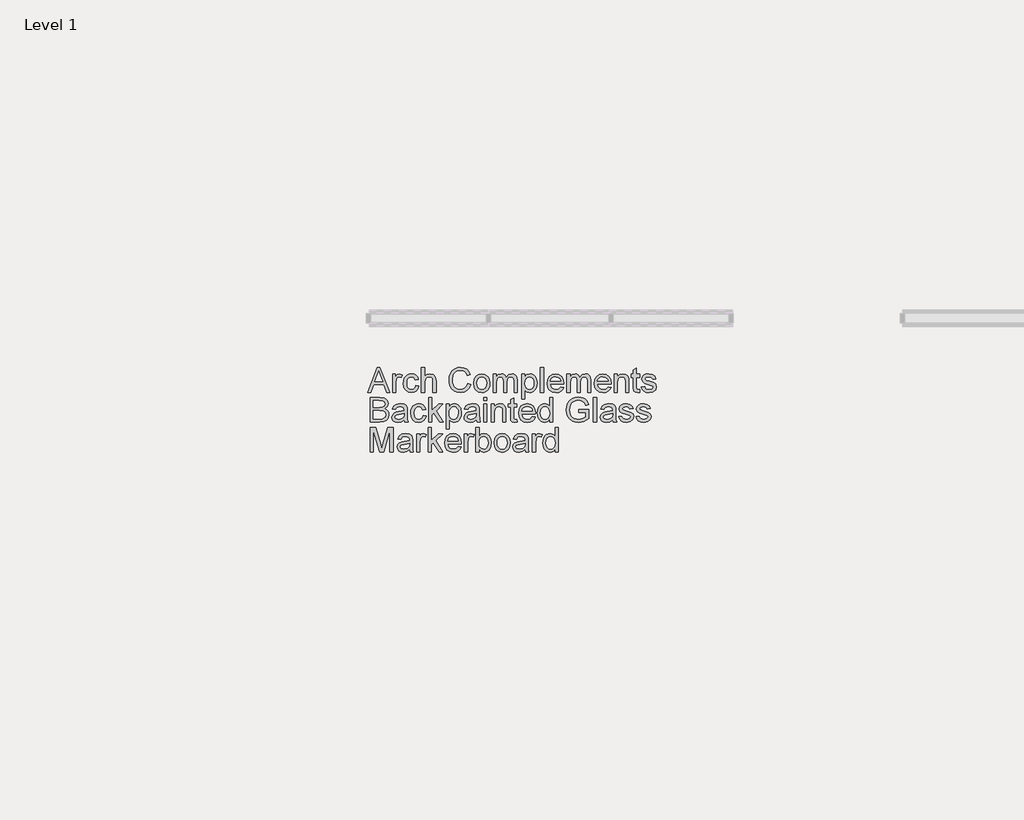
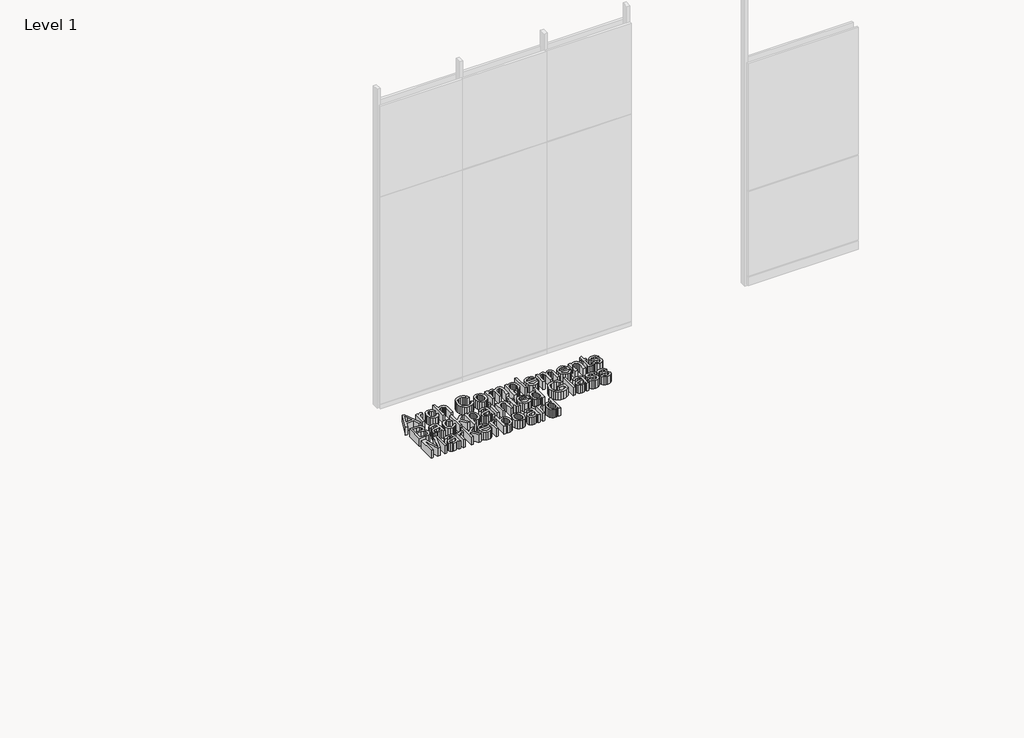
# One storey, part 21 of 22: 1 proxy.
"""IFC4 building model written with IfcOpenShell, lengths in millimetres."""

from ifc_helpers import new_model, si_unit, origin, origin_with_axes, place, context, project, spatial, polyline, outline, extrude, element, save

model = new_model("IFC4")

# Units and contexts
model_context = context("Model", 3, world=origin())
ifc_project = project(units=[si_unit("LENGTHUNIT", "METRE", prefix="MILLI")], contexts=[model_context])

# Site, building, storey
site = spatial("IfcSite", under=ifc_project)
building = spatial("IfcBuilding", under=site)
storey = spatial("IfcBuildingStorey", under=building, Name="Level 1", Elevation=0.0)

# Proxy
placement = place(None, origin())
element("IfcBuildingElementProxy", 1, Name="6\" Arial", ObjectType="6\" Arial", at=placement, inside=storey, context=model_context, shape_type="SweptSolid", body=[
    extrude(outline(polyline([(-107458.934071, 1351.2755108), (-107397.8229854, 1504.3709275), (-107381.526696, 1504.3709275), (-107320.4156105, 1351.2755108), (-107340.6364651, 1351.2755108), (-107358.1661893, 1399.1178285), (-107421.2208689, 1399.1178285), (-107438.7132164, 1351.2755108), (-107458.934071, 1351.2755108)]), holes=[polyline([(-107414.1940285, 1418.2547556), (-107365.1556529, 1418.2547556), (-107378.947696, 1455.893204), (-107389.6748407, 1485.2340004), (-107399.2059274, 1459.1823633), (-107414.1940285, 1418.2547556)])]), origin_with_axes(), (0.0, 0.0, 1.0), 76.2),
    extrude(outline(polyline([(-107302.3626109, 1351.2755108), (-107302.3626109, 1463.7049574), (-107285.6177997, 1463.7049574), (-107285.6177997, 1447.0722766), (-107273.7319739, 1462.396769), (-107261.7713945, 1466.0970733), (-107242.5597138, 1460.1915372), (-107248.9511484, 1443.0355811), (-107262.4068002, 1446.9601462), (-107273.2273869, 1443.1850883), (-107280.1234085, 1432.7195813), (-107283.2256838, 1410.3682485), (-107283.2256838, 1351.2755108), (-107302.3626109, 1351.2755108)])), origin_with_axes(), (0.0, 0.0, 1.0), 76.2),
    extrude(outline(polyline([(-107158.8356578, 1391.9414808), (-107139.6987307, 1389.549365), (-107145.0342704, 1372.5288998), (-107155.0605999, 1359.6666048), (-107168.8339546, 1351.5791974), (-107185.4105702, 1348.8833949), (-107205.7669157, 1352.6444365), (-107221.684765, 1363.9275612), (-107231.9587158, 1382.2375264), (-107235.3833661, 1407.0790892), (-107233.9209984, 1424.1088986), (-107229.5338952, 1438.8680667), (-107222.1519751, 1450.7865972), (-107211.7051565, 1459.2944937), (-107199.2072854, 1464.3964284), (-107185.6722079, 1466.0970733), (-107169.5020651, 1463.7610226), (-107156.5743607, 1456.7528706), (-107147.3002396, 1445.4463854), (-107142.0908466, 1430.215335), (-107161.2277736, 1427.8232191), (-107170.1047662, 1442.157226), (-107185.5227006, 1446.9601462), (-107197.8897529, 1444.5960629), (-107207.7058378, 1437.5038131), (-107214.1112887, 1425.3002844), (-107216.246439, 1407.6023645), (-107214.1580097, 1389.6661675), (-107207.8927218, 1377.4205899), (-107198.2541768, 1370.370389), (-107186.045976, 1368.020322), (-107176.136449, 1369.4873618), (-107168.0116648, 1373.8884813), (-107162.1014566, 1381.3358108), (-107158.8356578, 1391.9414808)])), origin_with_axes(), (0.0, 0.0, 1.0), 76.2),
    extrude(outline(polyline([(-107122.9539195, 1351.2755108), (-107122.9539195, 1504.3709275), (-107103.8169924, 1504.3709275), (-107103.8169924, 1448.0814505), (-107088.8943007, 1461.5931676), (-107070.5142541, 1466.0970733), (-107049.0225879, 1461.1820227), (-107035.978081, 1447.595552), (-107032.0535158, 1422.4409584), (-107032.0535158, 1351.2755108), (-107051.1904429, 1351.2755108), (-107051.1904429, 1420.4599874), (-107052.713548, 1432.4392553), (-107057.2828631, 1440.6434652), (-107064.6460948, 1445.380976), (-107074.5509496, 1446.9601462), (-107090.2305217, 1442.6991898), (-107100.6960287, 1431.1497553), (-107103.8169924, 1411.0036543), (-107103.8169924, 1351.2755108), (-107122.9539195, 1351.2755108)])), origin_with_axes(), (0.0, 0.0, 1.0), 76.2),
    extrude(outline(polyline([(-106835.9000132, 1405.6961472), (-106816.7630861, 1400.7624082), (-106825.5933577, 1378.4624685), (-106839.4508102, 1362.1708511), (-106857.6533171, 1352.205259), (-106879.5187513, 1348.8833949), (-106901.7159048, 1351.3969854), (-106919.3437431, 1358.937757), (-106932.8554602, 1371.2440719), (-106942.7042498, 1388.0542925), (-106948.7172443, 1407.8172812), (-106950.7215757, 1428.9819003), (-106948.4556066, 1451.3052005), (-106941.6576991, 1470.5822906), (-106930.6829331, 1486.2011254), (-106915.8863881, 1497.5496595), (-106898.3379755, 1504.4596974), (-106879.1076064, 1506.7630434), (-106858.1251993, 1503.7822427), (-106840.777687, 1494.8398407), (-106827.6070334, 1480.4871454), (-106819.155202, 1461.2754647), (-106838.2921291, 1456.7154938), (-106844.926513, 1470.6710605), (-106853.9903896, 1480.2441962), (-106865.5958893, 1485.7806362), (-106879.8551426, 1487.6261163), (-106896.2915951, 1485.5797359), (-106909.793968, 1479.4405947), (-106920.0398862, 1469.8534428), (-106926.7069748, 1457.46303), (-106931.5846486, 1429.0192771), (-106930.1409693, 1411.3400456), (-106925.8099314, 1396.05293), (-106918.4280113, 1383.741943), (-106907.8316854, 1374.9910972), (-106895.1282419, 1369.7630158), (-106881.4249687, 1368.020322), (-106865.4510542, 1370.3937495), (-106852.1402375, 1377.5140319), (-106842.0905475, 1389.3064157), (-106835.9000132, 1405.6961472)])), origin_with_axes(), (0.0, 0.0, 1.0), 76.2),
    extrude(outline(polyline([(-106797.6261591, 1407.4902341), (-106793.4866773, 1434.5977661), (-106781.0682319, 1453.6505953), (-106765.7250511, 1462.9854538), (-106747.3543487, 1466.0970733), (-106727.2502966, 1462.3079991), (-106711.1922843, 1450.9407766), (-106700.66604, 1432.8924491), (-106697.1572919, 1409.0600602), (-106698.7084295, 1389.7269048), (-106703.3618424, 1375.0097856), (-106710.9820397, 1363.9882985), (-106721.4335304, 1355.7420397), (-106733.8473037, 1350.5980561), (-106747.3543487, 1348.8833949), (-106767.70135, 1352.6584528), (-106783.7406739, 1363.9836264), (-106794.1547878, 1382.4103941), (-106797.6261591, 1407.4902341)]), holes=[polyline([(-106778.489232, 1407.5276109), (-106776.2746559, 1390.2081313), (-106769.6309278, 1377.8691116), (-106759.632631, 1370.4825194), (-106747.3543487, 1368.020322), (-106735.1321316, 1370.4965357), (-106725.1525231, 1377.9251768), (-106718.508795, 1390.42772), (-106716.294219, 1408.1256399), (-106718.5228113, 1424.9405326), (-106725.2085883, 1437.1113566), (-106735.2022131, 1444.4979488), (-106747.3543487, 1446.9601462), (-106759.632631, 1444.507293), (-106769.6309278, 1437.1487334), (-106776.2746559, 1424.8377464), (-106778.489232, 1407.5276109)])]), origin_with_axes(), (0.0, 0.0, 1.0), 76.2),
    extrude(outline(polyline([(-106675.6282489, 1351.2755108), (-106675.6282489, 1463.7049574), (-106656.4913218, 1463.7049574), (-106656.4913218, 1445.2034361), (-106643.3346844, 1460.3597329), (-106624.6089023, 1466.0970733), (-106613.9658554, 1464.6347056), (-106605.4345984, 1460.2476024), (-106594.8943378, 1443.8578709), (-106579.9623019, 1460.5372727), (-106561.1057009, 1466.0970733), (-106546.7203009, 1463.7843831), (-106536.0819261, 1456.8463126), (-106529.5082795, 1445.0959778), (-106527.317064, 1428.3464945), (-106527.317064, 1351.2755108), (-106546.4539911, 1351.2755108), (-106546.4539911, 1420.1235961), (-106548.2293896, 1436.1021827), (-106554.658201, 1443.9700014), (-106565.5909182, 1446.9601462), (-106575.958311, 1445.0445847), (-106584.4101424, 1439.2979), (-106590.0306803, 1429.3276358), (-106591.9041929, 1414.7413354), (-106591.9041929, 1351.2755108), (-106611.04112, 1351.2755108), (-106611.04112, 1422.2540743), (-106615.4702721, 1440.7929724), (-106621.3150708, 1445.4183528), (-106629.991163, 1446.9601462), (-106644.1569743, 1442.848697), (-106653.5759306, 1430.813364), (-106656.4913218, 1407.9761326), (-106656.4913218, 1351.2755108), (-106675.6282489, 1351.2755108)])), origin_with_axes(), (0.0, 0.0, 1.0), 76.2),
    extrude(outline(polyline([(-106498.6116734, 1308.2174249), (-106498.6116734, 1463.7049574), (-106479.4747463, 1463.7049574), (-106479.4747463, 1444.9417984), (-106466.2433553, 1460.8082546), (-106448.3772398, 1466.0970733), (-106435.4355191, 1464.2469212), (-106424.1196896, 1458.6964648), (-106414.9063058, 1449.7820954), (-106408.2719219, 1437.8402044), (-106402.927038, 1408.3499008), (-106404.4361267, 1391.9835298), (-106408.9633929, 1377.3458363), (-106416.3640014, 1365.1796844), (-106426.4931171, 1356.2279382), (-106438.290173, 1350.7195307), (-106450.6946021, 1348.8833949), (-106467.3459712, 1353.7984455), (-106479.4747463, 1366.2262351), (-106479.4747463, 1308.2174249), (-106498.6116734, 1308.2174249)]), holes=[polyline([(-106479.4747463, 1406.5931906), (-106477.4050054, 1389.4372345), (-106471.1957827, 1377.4392783), (-106462.033792, 1370.3750611), (-106451.105747, 1368.020322), (-106440.0001621, 1370.4591589), (-106430.6045663, 1377.7756696), (-106424.1991154, 1390.2128034), (-106422.063965, 1408.0135095), (-106424.1477222, 1425.0760235), (-106430.3989938, 1437.2421754), (-106439.5469683, 1444.5306535), (-106450.3208339, 1446.9601462), (-106461.1367485, 1444.3764742), (-106470.6351306, 1436.6254581), (-106477.2648424, 1423.9500471), (-106479.4747463, 1406.5931906)])]), origin_with_axes(), (0.0, 0.0, 1.0), 76.2),
    extrude(outline(polyline([(-106381.397995, 1351.2755108), (-106381.397995, 1504.3709275), (-106362.2610679, 1504.3709275), (-106362.2610679, 1351.2755108), (-106381.397995, 1351.2755108)])), origin_with_axes(), (0.0, 0.0, 1.0), 76.2),
    extrude(outline(polyline([(-106254.8401139, 1384.7651332), (-106236.076955, 1382.3730173), (-106242.8374856, 1368.2352387), (-106253.6253676, 1357.6669454), (-106268.1976517, 1351.0792825), (-106286.3113885, 1348.8833949), (-106308.7655076, 1352.6724691), (-106326.0429383, 1364.0396917), (-106337.0597533, 1382.2468706), (-106340.7320249, 1406.5558138), (-106337.0223765, 1431.6823748), (-106325.8934311, 1450.4735664), (-106308.8496054, 1462.1911966), (-106287.3953161, 1466.0970733), (-106266.6091372, 1462.2005408), (-106249.9998169, 1450.5109432), (-106239.1091487, 1431.7571285), (-106235.478926, 1406.6679443), (-106235.5910564, 1401.5099444), (-106321.5950979, 1401.5099444), (-106318.282578, 1387.1852817), (-106310.5876271, 1376.6543653), (-106299.4820422, 1370.1788328), (-106285.9376204, 1368.020322), (-106267.1744615, 1372.0196407), (-106254.8401139, 1384.7651332)]), holes=[polyline([(-106321.5950979, 1420.6468715), (-106254.6158531, 1420.6468715), (-106257.2041972, 1430.7572988), (-106262.2780993, 1437.9897116), (-106273.4350773, 1444.7175376), (-106287.4700697, 1446.9601462), (-106300.3697415, 1445.1707314), (-106311.0361488, 1439.802487), (-106318.4507737, 1431.4347535), (-106321.5950979, 1420.6468715)])]), origin_with_axes(), (0.0, 0.0, 1.0), 76.2),
    extrude(outline(polyline([(-106216.3419989, 1351.2755108), (-106216.3419989, 1463.7049574), (-106197.2050718, 1463.7049574), (-106197.2050718, 1445.2034361), (-106184.0484344, 1460.3597329), (-106165.3226523, 1466.0970733), (-106154.6796054, 1464.6347056), (-106146.1483484, 1460.2476024), (-106135.6080878, 1443.8578709), (-106120.6760519, 1460.5372727), (-106101.8194509, 1466.0970733), (-106087.4340509, 1463.7843831), (-106076.7956761, 1456.8463126), (-106070.2220295, 1445.0959778), (-106068.030814, 1428.3464945), (-106068.030814, 1351.2755108), (-106087.1677411, 1351.2755108), (-106087.1677411, 1420.1235961), (-106088.9431396, 1436.1021827), (-106095.371951, 1443.9700014), (-106106.3046682, 1446.9601462), (-106116.672061, 1445.0445847), (-106125.1238924, 1439.2979), (-106130.7444303, 1429.3276358), (-106132.6179429, 1414.7413354), (-106132.6179429, 1351.2755108), (-106151.75487, 1351.2755108), (-106151.75487, 1422.2540743), (-106156.1840221, 1440.7929724), (-106162.0288208, 1445.4183528), (-106170.704913, 1446.9601462), (-106184.8707243, 1442.848697), (-106194.2896806, 1430.813364), (-106197.2050718, 1407.9761326), (-106197.2050718, 1351.2755108), (-106216.3419989, 1351.2755108)])), origin_with_axes(), (0.0, 0.0, 1.0), 76.2),
    extrude(outline(polyline([(-105960.60986, 1384.7651332), (-105941.846701, 1382.3730173), (-105948.6072317, 1368.2352387), (-105959.3951137, 1357.6669454), (-105973.9673977, 1351.0792825), (-105992.0811346, 1348.8833949), (-106014.5352537, 1352.6724691), (-106031.8126844, 1364.0396917), (-106042.8294994, 1382.2468706), (-106046.501771, 1406.5558138), (-106042.7921226, 1431.6823748), (-106031.6631772, 1450.4735664), (-106014.6193515, 1462.1911966), (-105993.1650621, 1466.0970733), (-105972.3788833, 1462.2005408), (-105955.769563, 1450.5109432), (-105944.8788948, 1431.7571285), (-105941.2486721, 1406.6679443), (-105941.3608025, 1401.5099444), (-106027.3648439, 1401.5099444), (-106024.0523241, 1387.1852817), (-106016.3573732, 1376.6543653), (-106005.2517883, 1370.1788328), (-105991.7073665, 1368.020322), (-105972.9442076, 1372.0196407), (-105960.60986, 1384.7651332)]), holes=[polyline([(-106027.3648439, 1420.6468715), (-105960.3855992, 1420.6468715), (-105962.9739433, 1430.7572988), (-105968.0478454, 1437.9897116), (-105979.2048233, 1444.7175376), (-105993.2398158, 1446.9601462), (-106006.1394876, 1445.1707314), (-106016.8058949, 1439.802487), (-106024.2205197, 1431.4347535), (-106027.3648439, 1420.6468715)])]), origin_with_axes(), (0.0, 0.0, 1.0), 76.2),
    extrude(outline(polyline([(-105922.111745, 1351.2755108), (-105922.111745, 1463.7049574), (-105902.9748179, 1463.7049574), (-105902.9748179, 1448.0066969), (-105888.3417965, 1461.5744792), (-105868.3638912, 1466.0970733), (-105850.2922032, 1462.4528343), (-105837.9578557, 1452.8843707), (-105832.2205152, 1438.8120015), (-105831.2113413, 1420.3104802), (-105831.2113413, 1351.2755108), (-105850.3482684, 1351.2755108), (-105850.3482684, 1417.7314802), (-105852.5535003, 1434.6631755), (-105860.3465653, 1443.6149217), (-105873.4845143, 1446.9601462), (-105884.6928854, 1445.0819615), (-105894.2473326, 1439.4474073), (-105900.7929466, 1428.5614111), (-105902.9748179, 1410.9289007), (-105902.9748179, 1351.2755108), (-105922.111745, 1351.2755108)])), origin_with_axes(), (0.0, 0.0, 1.0), 76.2),
    extrude(outline(polyline([(-105764.2320966, 1367.235409), (-105761.8399807, 1350.7148586), (-105776.1552992, 1348.8833949), (-105792.189951, 1352.0604238), (-105800.1885885, 1360.3954526), (-105802.5059507, 1382.1113796), (-105802.5059507, 1444.5680303), (-105816.858646, 1444.5680303), (-105816.858646, 1463.7049574), (-105802.5059507, 1463.7049574), (-105802.5059507, 1491.027406), (-105783.3690236, 1502.2778261), (-105783.3690236, 1463.7049574), (-105764.2320966, 1463.7049574), (-105764.2320966, 1444.5680303), (-105783.3690236, 1444.5680303), (-105783.3690236, 1382.6720318), (-105782.3598497, 1372.8045538), (-105779.0893788, 1369.309822), (-105772.5671253, 1368.020322), (-105764.2320966, 1367.235409)])), origin_with_axes(), (0.0, 0.0, 1.0), 76.2),
    extrude(outline(polyline([(-105752.2715171, 1384.7651332), (-105733.13459, 1387.1572491), (-105730.1164126, 1378.9717275), (-105724.2762859, 1372.954061), (-105703.9806777, 1368.020322), (-105684.4699825, 1372.5429161), (-105678.1159247, 1383.1579303), (-105679.7137833, 1388.0356041), (-105684.5073593, 1391.7545968), (-105704.2049386, 1397.2116112), (-105733.0224596, 1406.5745022), (-105745.5997564, 1417.5072194), (-105749.8794012, 1432.9438422), (-105746.4407347, 1447.2030955), (-105737.0591552, 1458.0984358), (-105724.8930033, 1463.7610226), (-105708.4285182, 1466.0970733), (-105685.1427651, 1462.3407038), (-105670.341548, 1452.1742113), (-105663.7632294, 1434.9995668), (-105682.9001564, 1432.6074509), (-105690.0951925, 1443.1663999), (-105706.9334457, 1446.9601462), (-105725.248083, 1443.3345956), (-105730.7424742, 1434.8874364), (-105728.4624887, 1429.3182916), (-105721.3235179, 1425.0947119), (-105704.8403443, 1421.0206396), (-105676.7516711, 1412.0128282), (-105663.7071641, 1401.8089589), (-105658.9789976, 1385.1762781), (-105664.529454, 1366.8616409), (-105680.5454174, 1353.5741847), (-105704.2423154, 1348.8833949), (-105723.5380939, 1351.144692), (-105737.6198073, 1357.9285831), (-105747.0200752, 1369.1603147), (-105752.2715171, 1384.7651332)])), origin_with_axes(), (0.0, 0.0, 1.0), 76.2),
    extrude(outline(polyline([(-107441.1053322, 1165.3858884), (-107441.1053322, 1318.4813051), (-107382.6853771, 1318.4813051), (-107354.0734285, 1313.9773994), (-107344.4582439, 1308.2634194), (-107337.1791101, 1300.129291), (-107331.0680015, 1280.5438422), (-107336.207313, 1262.6590383), (-107351.7373778, 1249.1099444), (-107340.8934306, 1243.4473576), (-107332.8807768, 1234.8320027), (-107327.9330215, 1223.8338761), (-107326.2837697, 1211.0229743), (-107330.7876754, 1190.44704), (-107341.9446534, 1175.7953302), (-107358.5960226, 1168.0209536), (-107383.1338988, 1165.3858884), (-107441.1053322, 1165.3858884)]), holes=[polyline([(-107421.9684052, 1184.5228155), (-107382.7227539, 1184.5228155), (-107368.5195658, 1185.2703517), (-107356.5029212, 1189.4378661), (-107348.5416605, 1197.9410905), (-107345.4206968, 1210.8360902), (-107349.0836243, 1225.7120609), (-107360.9507617, 1234.5890534), (-107384.5915944, 1237.149365), (-107421.9684052, 1237.149365), (-107421.9684052, 1184.5228155)]), polyline([(-107421.9684052, 1256.286292), (-107387.0210871, 1256.286292), (-107366.6133485, 1257.9308717), (-107354.3350662, 1265.0137773), (-107350.2049286, 1277.4789437), (-107354.0547401, 1289.9627985), (-107365.0808993, 1297.3447186), (-107389.6748407, 1299.344378), (-107421.9684052, 1299.344378), (-107421.9684052, 1256.286292)])]), origin_with_axes(), (0.0, 0.0, 1.0), 76.2),
    extrude(outline(polyline([(-107230.5991343, 1179.7385837), (-107249.1567208, 1166.7688304), (-107269.6579015, 1162.9937725), (-107285.6505044, 1165.2644138), (-107297.4475603, 1172.0763375), (-107304.7220221, 1182.4203699), (-107307.1468427, 1195.287337), (-107303.4839152, 1210.4249453), (-107293.8593865, 1221.4137277), (-107280.4597998, 1227.6930319), (-107263.9018727, 1230.5710463), (-107230.7112648, 1237.149365), (-107230.5991343, 1241.4103214), (-107231.9166669, 1249.9509226), (-107235.8692646, 1255.5387558), (-107244.7088804, 1259.6875818), (-107257.0245395, 1261.0705238), (-107276.3857274, 1257.388908), (-107285.6177997, 1244.3257126), (-107304.7547268, 1246.7178285), (-107296.4757632, 1265.4062339), (-107279.8057056, 1276.3576394), (-107254.55767, 1280.2074509), (-107231.3653589, 1276.8061611), (-107218.2647868, 1268.2655599), (-107212.3966275, 1255.2771182), (-107211.4622072, 1238.532307), (-107211.4622072, 1214.7232785), (-107210.4904102, 1181.4766054), (-107206.6779755, 1165.3858884), (-107225.8149026, 1165.3858884), (-107230.5991343, 1179.7385837)]), holes=[polyline([(-107230.5991343, 1218.0124379), (-107261.47238, 1212.1442786), (-107277.9368651, 1209.0420033), (-107285.3935388, 1203.9961339), (-107288.0099156, 1196.6329022), (-107282.3099519, 1186.2795256), (-107265.5838291, 1182.1306996), (-107246.2226412, 1186.7093589), (-107233.7387864, 1197.7915833), (-107230.7112648, 1212.5928003), (-107230.5991343, 1218.0124379)])]), origin_with_axes(), (0.0, 0.0, 1.0), 76.2),
    extrude(outline(polyline([(-107113.3854559, 1206.0518585), (-107094.2485289, 1203.6597426), (-107099.5840686, 1186.6392774), (-107109.6103981, 1173.7769824), (-107123.3837528, 1165.689575), (-107139.9603684, 1162.9937725), (-107160.3167139, 1166.7548141), (-107176.2345631, 1178.0379388), (-107186.508514, 1196.347904), (-107189.9331643, 1221.1894668), (-107188.4707966, 1238.2192762), (-107184.0836934, 1252.9784443), (-107176.7017733, 1264.8969748), (-107166.2549547, 1273.4048714), (-107153.7570836, 1278.506806), (-107140.222006, 1280.2074509), (-107124.0518633, 1277.8714002), (-107111.1241589, 1270.8632482), (-107101.8500377, 1259.556763), (-107096.6406447, 1244.3257126), (-107115.7775718, 1241.9335967), (-107124.6545644, 1256.2676036), (-107140.0724988, 1261.0705238), (-107152.439551, 1258.7064405), (-107162.2556359, 1251.6141907), (-107168.6610869, 1239.410662), (-107170.7962372, 1221.7127421), (-107168.7078079, 1203.7765451), (-107162.44252, 1191.5309675), (-107152.8039749, 1184.4807666), (-107140.5957741, 1182.1306996), (-107130.6862472, 1183.5977394), (-107122.561463, 1187.9988589), (-107116.6512548, 1195.4461884), (-107113.3854559, 1206.0518585)])), origin_with_axes(), (0.0, 0.0, 1.0), 76.2),
    extrude(outline(polyline([(-107077.5037177, 1165.3858884), (-107077.5037177, 1318.4813051), (-107058.3667906, 1318.4813051), (-107058.3667906, 1236.2149447), (-107015.4582119, 1277.815335), (-106988.9954299, 1277.815335), (-107032.4272839, 1235.6916693), (-106986.603314, 1165.3858884), (-107008.9546468, 1165.3858884), (-107046.1445735, 1222.3855247), (-107058.3667906, 1210.5370757), (-107058.3667906, 1165.3858884), (-107077.5037177, 1165.3858884)])), origin_with_axes(), (0.0, 0.0, 1.0), 76.2),
    extrude(outline(polyline([(-106969.8585028, 1122.3278025), (-106969.8585028, 1277.815335), (-106950.7215757, 1277.815335), (-106950.7215757, 1259.052176), (-106937.4901847, 1274.9186322), (-106919.6240692, 1280.2074509), (-106906.6823485, 1278.3572988), (-106895.3665191, 1272.8068424), (-106886.1531352, 1263.892473), (-106879.5187513, 1251.950582), (-106874.1738674, 1222.4602784), (-106875.6829561, 1206.0939074), (-106880.2102223, 1191.4562139), (-106887.6108308, 1179.290062), (-106897.7399465, 1170.3383158), (-106909.5370024, 1164.8299083), (-106921.9414315, 1162.9937725), (-106938.5928007, 1167.9088231), (-106950.7215757, 1180.3366127), (-106950.7215757, 1122.3278025), (-106969.8585028, 1122.3278025)]), holes=[polyline([(-106950.7215757, 1220.7035683), (-106948.6518348, 1203.5476121), (-106942.4426122, 1191.5496559), (-106933.2806214, 1184.4854387), (-106922.3525764, 1182.1306996), (-106911.2469915, 1184.5695365), (-106901.8513957, 1191.8860472), (-106895.4459448, 1204.323181), (-106893.3107945, 1222.1238871), (-106895.3945517, 1239.1864011), (-106901.6458233, 1251.352553), (-106910.7937977, 1258.6410311), (-106921.5676634, 1261.0705238), (-106932.383578, 1258.4868518), (-106941.88196, 1250.7358357), (-106948.5116718, 1238.0604247), (-106950.7215757, 1220.7035683)])]), origin_with_axes(), (0.0, 0.0, 1.0), 76.2),
    extrude(outline(polyline([(-106780.8813479, 1179.7385837), (-106799.4389344, 1166.7688304), (-106819.9401151, 1162.9937725), (-106835.9327179, 1165.2644138), (-106847.7297738, 1172.0763375), (-106855.0042356, 1182.4203699), (-106857.4290562, 1195.287337), (-106853.7661287, 1210.4249453), (-106844.1416, 1221.4137277), (-106830.7420133, 1227.6930319), (-106814.1840862, 1230.5710463), (-106780.9934783, 1237.149365), (-106780.8813479, 1241.4103214), (-106782.1988804, 1249.9509226), (-106786.1514782, 1255.5387558), (-106794.9910939, 1259.6875818), (-106807.306753, 1261.0705238), (-106826.667941, 1257.388908), (-106835.9000132, 1244.3257126), (-106855.0369403, 1246.7178285), (-106846.7579767, 1265.4062339), (-106830.0879192, 1276.3576394), (-106804.8398835, 1280.2074509), (-106781.6475725, 1276.8061611), (-106768.5470003, 1268.2655599), (-106762.678841, 1255.2771182), (-106761.7444208, 1238.532307), (-106761.7444208, 1214.7232785), (-106760.7726237, 1181.4766054), (-106756.960189, 1165.3858884), (-106776.0971161, 1165.3858884), (-106780.8813479, 1179.7385837)]), holes=[polyline([(-106780.8813479, 1218.0124379), (-106811.7545935, 1212.1442786), (-106828.2190786, 1209.0420033), (-106835.6757524, 1203.9961339), (-106838.2921291, 1196.6329022), (-106832.5921655, 1186.2795256), (-106815.8660427, 1182.1306996), (-106796.5048547, 1186.7093589), (-106784.021, 1197.7915833), (-106780.9934783, 1212.5928003), (-106780.8813479, 1218.0124379)])]), origin_with_axes(), (0.0, 0.0, 1.0), 76.2),
    extrude(outline(polyline([(-106735.431146, 1299.344378), (-106735.431146, 1318.4813051), (-106716.294219, 1318.4813051), (-106716.294219, 1299.344378), (-106735.431146, 1299.344378)])), origin_with_axes(), (0.0, 0.0, 1.0), 76.2),
    extrude(outline(polyline([(-106735.431146, 1165.3858884), (-106735.431146, 1277.815335), (-106716.294219, 1277.815335), (-106716.294219, 1165.3858884), (-106735.431146, 1165.3858884)])), origin_with_axes(), (0.0, 0.0, 1.0), 76.2),
    extrude(outline(polyline([(-106687.5888283, 1165.3858884), (-106687.5888283, 1277.815335), (-106668.4519012, 1277.815335), (-106668.4519012, 1262.1170745), (-106653.8188799, 1275.6848568), (-106633.8409745, 1280.2074509), (-106615.7692866, 1276.5632119), (-106603.434939, 1266.9947483), (-106597.6975986, 1252.9223791), (-106596.6884247, 1234.4208578), (-106596.6884247, 1165.3858884), (-106615.8253518, 1165.3858884), (-106615.8253518, 1231.8418578), (-106618.0305836, 1248.7735531), (-106625.8236486, 1257.7252993), (-106638.9615976, 1261.0705238), (-106650.1699687, 1259.1923391), (-106659.7244159, 1253.5577849), (-106666.2700299, 1242.6717887), (-106668.4519012, 1225.0392783), (-106668.4519012, 1165.3858884), (-106687.5888283, 1165.3858884)])), origin_with_axes(), (0.0, 0.0, 1.0), 76.2),
    extrude(outline(polyline([(-106529.7091799, 1181.3457866), (-106527.317064, 1164.8252362), (-106541.6323825, 1162.9937725), (-106557.6670343, 1166.1708014), (-106565.6656718, 1174.5058302), (-106567.9830341, 1196.2217572), (-106567.9830341, 1258.6784079), (-106582.3357294, 1258.6784079), (-106582.3357294, 1277.815335), (-106567.9830341, 1277.815335), (-106567.9830341, 1305.1377836), (-106548.846107, 1316.3882037), (-106548.846107, 1277.815335), (-106529.7091799, 1277.815335), (-106529.7091799, 1258.6784079), (-106548.846107, 1258.6784079), (-106548.846107, 1196.7824094), (-106547.8369331, 1186.9149314), (-106544.5664621, 1183.4201996), (-106538.0442087, 1182.1306996), (-106529.7091799, 1181.3457866)])), origin_with_axes(), (0.0, 0.0, 1.0), 76.2),
    extrude(outline(polyline([(-106431.8566895, 1198.8755108), (-106413.0935305, 1196.4833949), (-106419.8540611, 1182.3456163), (-106430.6419431, 1171.777323), (-106445.2142272, 1165.1896601), (-106463.3279641, 1162.9937725), (-106485.7820831, 1166.7828467), (-106503.0595139, 1178.1500693), (-106514.0763288, 1196.3572482), (-106517.7486005, 1220.6661914), (-106514.038952, 1245.7927524), (-106502.9100066, 1264.583944), (-106485.8661809, 1276.3015742), (-106464.4118916, 1280.2074509), (-106443.6257127, 1276.3109184), (-106427.0163925, 1264.6213208), (-106416.1257242, 1245.8675061), (-106412.4955015, 1220.7783219), (-106412.6076319, 1215.620322), (-106498.6116734, 1215.620322), (-106495.2991535, 1201.2956593), (-106487.6042026, 1190.7647429), (-106476.4986177, 1184.2892104), (-106462.954196, 1182.1306996), (-106444.191037, 1186.1300183), (-106431.8566895, 1198.8755108)]), holes=[polyline([(-106498.6116734, 1234.7572491), (-106431.6324286, 1234.7572491), (-106434.2207727, 1244.8676764), (-106439.2946748, 1252.1000892), (-106450.4516528, 1258.8279152), (-106464.4866452, 1261.0705238), (-106477.386317, 1259.281109), (-106488.0527244, 1253.9128646), (-106495.4673492, 1245.5451311), (-106498.6116734, 1234.7572491)])]), origin_with_axes(), (0.0, 0.0, 1.0), 76.2),
    extrude(outline(polyline([(-106323.9872137, 1165.3858884), (-106323.9872137, 1183.438888), (-106336.6486084, 1168.1050514), (-106354.1503, 1162.9937725), (-106366.5220243, 1164.8439246), (-106377.847198, 1170.394381), (-106387.4343499, 1179.2573573), (-106394.5920092, 1191.045069), (-106399.0491939, 1205.2809617), (-106400.5349221, 1221.4884813), (-106395.0592193, 1251.950582), (-106388.2192629, 1264.0326361), (-106378.6507994, 1272.9189728), (-106367.0780044, 1278.3853314), (-106354.2250536, 1280.2074509), (-106336.583199, 1274.9933858), (-106323.9872137, 1261.4442919), (-106323.9872137, 1318.4813051), (-106304.8502867, 1318.4813051), (-106304.8502867, 1165.3858884), (-106323.9872137, 1165.3858884)]), holes=[polyline([(-106381.397995, 1221.5632349), (-106379.2394842, 1204.2530994), (-106372.7639517, 1191.9421124), (-106363.3543396, 1184.5835528), (-106352.3935899, 1182.1306996), (-106341.4375122, 1184.4714224), (-106332.2661773, 1191.4935907), (-106326.0569546, 1203.3280234), (-106323.9872137, 1220.1055393), (-106326.0943314, 1238.4482091), (-106332.4156846, 1251.165669), (-106341.8206246, 1258.5943101), (-106353.1785029, 1261.0705238), (-106364.2513831, 1258.6924242), (-106373.3246039, 1251.5581255), (-106379.3796472, 1239.3032037), (-106381.397995, 1221.5632349)])]), origin_with_axes(), (0.0, 0.0, 1.0), 76.2),
    extrude(outline(polyline([(-106142.1864065, 1225.1887855), (-106142.1864065, 1244.3257126), (-106079.9913934, 1244.3257126), (-106079.9913934, 1187.1018154), (-106110.6964434, 1169.0488159), (-106143.1582035, 1162.9937725), (-106164.6265092, 1165.3999047), (-106184.029746, 1172.6183013), (-106200.1484957, 1184.3966687), (-106211.7633396, 1200.4827137), (-106218.7855079, 1219.7784922), (-106221.1262307, 1241.1860605), (-106218.7948521, 1262.7478082), (-106211.8007164, 1282.8051392), (-106200.4334938, 1299.6293762), (-106184.9828547, 1311.4918415), (-106166.1636305, 1318.5280261), (-106144.6906528, 1320.873421), (-106114.7518274, 1315.435095), (-106102.8146085, 1308.9315299), (-106093.7647482, 1300.2974867), (-106082.1966253, 1274.9746974), (-106099.8384799, 1270.0035816), (-106108.5659652, 1287.7015014), (-106123.4793127, 1297.9053708), (-106144.9896673, 1301.7364939), (-106169.4901667, 1297.6063563), (-106186.1602243, 1286.7670812), (-106196.0090139, 1272.0219294), (-106201.9893036, 1241.9709735), (-106200.1905446, 1223.6703526), (-106194.7942675, 1208.61217), (-106185.963996, 1196.903884), (-106173.8632535, 1188.6529531), (-106159.7021144, 1183.761263), (-106144.6906528, 1182.1306996), (-106118.5081969, 1187.0457502), (-106099.1283205, 1197.5299456), (-106099.1283205, 1225.1887855), (-106142.1864065, 1225.1887855)])), origin_with_axes(), (0.0, 0.0, 1.0), 76.2),
    extrude(outline(polyline([(-106051.2860028, 1165.3858884), (-106051.2860028, 1318.4813051), (-106032.1490757, 1318.4813051), (-106032.1490757, 1165.3858884), (-106051.2860028, 1165.3858884)])), origin_with_axes(), (0.0, 0.0, 1.0), 76.2),
    extrude(outline(polyline([(-105931.6802085, 1179.7385837), (-105950.237795, 1166.7688304), (-105970.7389757, 1162.9937725), (-105986.7315786, 1165.2644138), (-105998.5286345, 1172.0763375), (-106005.8030963, 1182.4203699), (-106008.2279169, 1195.287337), (-106004.5649894, 1210.4249453), (-105994.9404607, 1221.4137277), (-105981.540874, 1227.6930319), (-105964.9829469, 1230.5710463), (-105931.792339, 1237.149365), (-105931.6802085, 1241.4103214), (-105932.9977411, 1249.9509226), (-105936.9503388, 1255.5387558), (-105945.7899546, 1259.6875818), (-105958.1056137, 1261.0705238), (-105977.4668017, 1257.388908), (-105986.6988739, 1244.3257126), (-106005.835801, 1246.7178285), (-105997.5568374, 1265.4062339), (-105980.8867798, 1276.3576394), (-105955.6387442, 1280.2074509), (-105932.4464332, 1276.8061611), (-105919.345861, 1268.2655599), (-105913.4777017, 1255.2771182), (-105912.5432814, 1238.532307), (-105912.5432814, 1214.7232785), (-105911.5714844, 1181.4766054), (-105907.7590497, 1165.3858884), (-105926.8959768, 1165.3858884), (-105931.6802085, 1179.7385837)]), holes=[polyline([(-105931.6802085, 1218.0124379), (-105962.5534542, 1212.1442786), (-105979.0179393, 1209.0420033), (-105986.474613, 1203.9961339), (-105989.0909898, 1196.6329022), (-105983.3910261, 1186.2795256), (-105966.6649034, 1182.1306996), (-105947.3037154, 1186.7093589), (-105934.8198606, 1197.7915833), (-105931.792339, 1212.5928003), (-105931.6802085, 1218.0124379)])]), origin_with_axes(), (0.0, 0.0, 1.0), 76.2),
    extrude(outline(polyline([(-105893.4063544, 1198.8755108), (-105874.2694273, 1201.2676267), (-105871.2512498, 1193.0821051), (-105865.4111231, 1187.0644386), (-105845.1155149, 1182.1306996), (-105825.6048197, 1186.6532937), (-105819.2507619, 1197.2683079), (-105820.8486206, 1202.1459817), (-105825.6421965, 1205.8649744), (-105845.3397758, 1211.3219888), (-105874.1572968, 1220.6848798), (-105886.7345937, 1231.617597), (-105891.0142385, 1247.0542198), (-105887.5755719, 1261.3134731), (-105878.1939924, 1272.2088134), (-105866.0278405, 1277.8714002), (-105849.5633554, 1280.2074509), (-105826.2776023, 1276.4510814), (-105811.4763853, 1266.2845889), (-105804.8980666, 1249.1099444), (-105824.0349937, 1246.7178285), (-105831.2300297, 1257.2767775), (-105848.068283, 1261.0705238), (-105866.3829202, 1257.4449732), (-105871.8773114, 1248.997814), (-105869.5973259, 1243.4286692), (-105862.4583551, 1239.2050896), (-105845.9751816, 1235.1310172), (-105817.8865083, 1226.1232058), (-105804.8420014, 1215.9193365), (-105800.1138348, 1199.2866557), (-105805.6642912, 1180.9720185), (-105821.6802546, 1167.6845623), (-105845.3771526, 1162.9937725), (-105864.6729311, 1165.2550696), (-105878.7546446, 1172.0389607), (-105888.1549125, 1183.2706923), (-105893.4063544, 1198.8755108)])), origin_with_axes(), (0.0, 0.0, 1.0), 76.2),
    extrude(outline(polyline([(-105785.7611395, 1198.8755108), (-105766.6242124, 1201.2676267), (-105763.606035, 1193.0821051), (-105757.7659083, 1187.0644386), (-105737.4703001, 1182.1306996), (-105717.9596049, 1186.6532937), (-105711.6055471, 1197.2683079), (-105713.2034057, 1202.1459817), (-105717.9969817, 1205.8649744), (-105737.6945609, 1211.3219888), (-105766.512082, 1220.6848798), (-105779.0893788, 1231.617597), (-105783.3690236, 1247.0542198), (-105779.930357, 1261.3134731), (-105770.5487776, 1272.2088134), (-105758.3826257, 1277.8714002), (-105741.9181406, 1280.2074509), (-105718.6323875, 1276.4510814), (-105703.8311704, 1266.2845889), (-105697.2528518, 1249.1099444), (-105716.3897788, 1246.7178285), (-105723.5848149, 1257.2767775), (-105740.4230681, 1261.0705238), (-105758.7377054, 1257.4449732), (-105764.2320966, 1248.997814), (-105761.9521111, 1243.4286692), (-105754.8131403, 1239.2050896), (-105738.3299667, 1235.1310172), (-105710.2412935, 1226.1232058), (-105697.1967865, 1215.9193365), (-105692.46862, 1199.2866557), (-105698.0190764, 1180.9720185), (-105714.0350398, 1167.6845623), (-105737.7319378, 1162.9937725), (-105757.0277163, 1165.2550696), (-105771.1094297, 1172.0389607), (-105780.5096976, 1183.2706923), (-105785.7611395, 1198.8755108)])), origin_with_axes(), (0.0, 0.0, 1.0), 76.2),
    extrude(outline(polyline([(-107441.1053322, 979.496266), (-107441.1053322, 1132.5916827), (-107408.176362, 1132.5916827), (-107376.8545946, 1024.6848302), (-107370.5379136, 1002.1466133), (-107363.6979573, 1026.5536707), (-107332.8994652, 1132.5916827), (-107299.970495, 1132.5916827), (-107299.970495, 979.496266), (-107319.1074221, 979.496266), (-107319.1074221, 1113.4547556), (-107357.5681603, 979.496266), (-107383.5076669, 979.496266), (-107421.9684052, 1113.4547556), (-107421.9684052, 979.496266), (-107441.1053322, 979.496266)])), origin_with_axes(), (0.0, 0.0, 1.0), 76.2),
    extrude(outline(polyline([(-107197.1095119, 993.8489613), (-107215.6670984, 980.879208), (-107236.1682791, 977.1041501), (-107252.160882, 979.3747914), (-107263.9579379, 986.1867151), (-107271.2323997, 996.5307475), (-107273.6572203, 1009.3977146), (-107269.9942928, 1024.5353229), (-107260.3697641, 1035.5241053), (-107246.9701774, 1041.8034095), (-107230.4122503, 1044.6814239), (-107197.2216424, 1051.2597426), (-107197.1095119, 1055.520699), (-107198.4270445, 1064.0613002), (-107202.3796422, 1069.6491334), (-107211.219258, 1073.7979594), (-107223.5349171, 1075.1809014), (-107242.896105, 1071.4992856), (-107252.1281773, 1058.4360902), (-107271.2651044, 1060.8282061), (-107262.9861408, 1079.5166115), (-107246.3160832, 1090.468017), (-107221.0680476, 1094.3178285), (-107197.8757365, 1090.9165387), (-107184.7751644, 1082.3759375), (-107178.9070051, 1069.3874958), (-107177.9725848, 1052.6426846), (-107177.9725848, 1028.8336561), (-107177.0007878, 995.586983), (-107173.1883531, 979.496266), (-107192.3252802, 979.496266), (-107197.1095119, 993.8489613)]), holes=[polyline([(-107197.1095119, 1032.1228155), (-107227.9827576, 1026.2546562), (-107244.4472427, 1023.1523809), (-107251.9039164, 1018.1065115), (-107254.5202932, 1010.7432798), (-107248.8203295, 1000.3899032), (-107232.0942068, 996.2410772), (-107212.7330188, 1000.8197365), (-107200.249164, 1011.9019609), (-107197.2216424, 1026.7031779), (-107197.1095119, 1032.1228155)])]), origin_with_axes(), (0.0, 0.0, 1.0), 76.2),
    extrude(outline(polyline([(-107151.6593101, 979.496266), (-107151.6593101, 1091.9257126), (-107134.9144989, 1091.9257126), (-107134.9144989, 1075.2930319), (-107123.0286731, 1090.6175242), (-107111.0680937, 1094.3178285), (-107091.856413, 1088.4122924), (-107098.2478476, 1071.2563363), (-107111.7034995, 1075.1809014), (-107122.5240862, 1071.4058435), (-107129.4201077, 1060.9403365), (-107132.522383, 1038.5890037), (-107132.522383, 979.496266), (-107151.6593101, 979.496266)])), origin_with_axes(), (0.0, 0.0, 1.0), 76.2),
    extrude(outline(polyline([(-107079.8958335, 979.496266), (-107079.8958335, 1132.5916827), (-107060.7589065, 1132.5916827), (-107060.7589065, 1050.3253223), (-107017.8503278, 1091.9257126), (-106991.3875458, 1091.9257126), (-107034.8193998, 1049.802047), (-106988.9954299, 979.496266), (-107011.3467627, 979.496266), (-107048.5366894, 1036.4959023), (-107060.7589065, 1024.6474533), (-107060.7589065, 979.496266), (-107079.8958335, 979.496266)])), origin_with_axes(), (0.0, 0.0, 1.0), 76.2),
    extrude(outline(polyline([(-106893.5350553, 1012.9858884), (-106874.7718964, 1010.5937725), (-106881.532427, 996.4559939), (-106892.320309, 985.8877006), (-106906.8925931, 979.3000377), (-106925.00633, 977.1041501), (-106947.460449, 980.8932243), (-106964.7378797, 992.2604469), (-106975.7546947, 1010.4676258), (-106979.4269664, 1034.776569), (-106975.7173179, 1059.90313), (-106964.5883725, 1078.6943216), (-106947.5445468, 1090.4119518), (-106926.0902575, 1094.3178285), (-106905.3040786, 1090.421296), (-106888.6947584, 1078.7316984), (-106877.8040901, 1059.9778837), (-106874.1738674, 1034.8886995), (-106874.2859978, 1029.7306996), (-106960.2900393, 1029.7306996), (-106956.9775194, 1015.4060369), (-106949.2825685, 1004.8751205), (-106938.1769836, 998.399588), (-106924.6325619, 996.2410772), (-106905.8694029, 1000.2403959), (-106893.5350553, 1012.9858884)]), holes=[polyline([(-106960.2900393, 1048.8676267), (-106893.3107945, 1048.8676267), (-106895.8991386, 1058.978054), (-106900.9730407, 1066.2104669), (-106912.1300187, 1072.9382928), (-106926.1650111, 1075.1809014), (-106939.0646829, 1073.3914866), (-106949.7310902, 1068.0232422), (-106957.1457151, 1059.6555087), (-106960.2900393, 1048.8676267)])]), origin_with_axes(), (0.0, 0.0, 1.0), 76.2),
    extrude(outline(polyline([(-106855.0369403, 979.496266), (-106855.0369403, 1091.9257126), (-106838.2921291, 1091.9257126), (-106838.2921291, 1075.2930319), (-106826.4063033, 1090.6175242), (-106814.4457239, 1094.3178285), (-106795.2340432, 1088.4122924), (-106801.6254778, 1071.2563363), (-106815.0811297, 1075.1809014), (-106825.9017164, 1071.4058435), (-106832.7977379, 1060.9403365), (-106835.9000132, 1038.5890037), (-106835.9000132, 979.496266), (-106855.0369403, 979.496266)])), origin_with_axes(), (0.0, 0.0, 1.0), 76.2),
    extrude(outline(polyline([(-106764.1365367, 979.496266), (-106783.2734637, 979.496266), (-106783.2734637, 1132.5916827), (-106764.1365367, 1132.5916827), (-106764.1365367, 1075.8163072), (-106750.73695, 1089.6924482), (-106734.0855809, 1094.3178285), (-106714.911277, 1090.1503141), (-106700.0353063, 1078.432684), (-106690.8966761, 1060.2114887), (-106687.5888283, 1037.3929458), (-106691.0134786, 1011.8458957), (-106701.2874295, 992.8397874), (-106716.3643005, 981.0380594), (-106734.1977113, 977.1041501), (-106751.2135044, 982.1780522), (-106764.1365367, 997.3997583), (-106764.1365367, 979.496266)]), holes=[polyline([(-106764.1365367, 1036.4959023), (-106762.8283483, 1020.5360042), (-106758.9037832, 1009.7341059), (-106748.8774537, 999.6143344), (-106735.842291, 996.2410772), (-106724.7974434, 998.7266351), (-106715.3597987, 1006.1833089), (-106708.8842662, 1018.5643774), (-106706.7257554, 1035.8231197), (-106708.7954963, 1053.3341556), (-106715.004719, 1065.5750611), (-106724.1480213, 1072.7794413), (-106735.0200011, 1075.1809014), (-106746.0648487, 1072.6953435), (-106755.5024934, 1065.2386698), (-106761.9780258, 1053.0818621), (-106764.1365367, 1036.4959023)])]), origin_with_axes(), (0.0, 0.0, 1.0), 76.2),
    extrude(outline(polyline([(-106670.8440171, 1035.7109893), (-106666.7045353, 1062.8185213), (-106654.28609, 1081.8713505), (-106638.9429092, 1091.206209), (-106620.5722067, 1094.3178285), (-106600.4681547, 1090.5287543), (-106584.4101424, 1079.1615318), (-106573.883898, 1061.1132043), (-106570.3751499, 1037.2808154), (-106571.9262876, 1017.94766), (-106576.5797005, 1003.2305408), (-106584.1998978, 992.2090537), (-106594.6513885, 983.9627949), (-106607.0651618, 978.8188113), (-106620.5722067, 977.1041501), (-106640.9192081, 980.879208), (-106656.958532, 992.2043816), (-106667.3726458, 1010.6311493), (-106670.8440171, 1035.7109893)]), holes=[polyline([(-106651.70709, 1035.7483661), (-106649.492514, 1018.4288865), (-106642.8487859, 1006.0898668), (-106632.850489, 998.7032746), (-106620.5722067, 996.2410772), (-106608.3499896, 998.7172909), (-106598.3703812, 1006.145932), (-106591.7266531, 1018.6484752), (-106589.512077, 1036.3463951), (-106591.7406694, 1053.1612878), (-106598.4264464, 1065.3321118), (-106608.4200711, 1072.718704), (-106620.5722067, 1075.1809014), (-106632.850489, 1072.7280482), (-106642.8487859, 1065.3694886), (-106649.492514, 1053.0585016), (-106651.70709, 1035.7483661)])]), origin_with_axes(), (0.0, 0.0, 1.0), 76.2),
    extrude(outline(polyline([(-106477.0826304, 993.8489613), (-106495.6402169, 980.879208), (-106516.1413976, 977.1041501), (-106532.1340005, 979.3747914), (-106543.9310564, 986.1867151), (-106551.2055182, 996.5307475), (-106553.6303387, 1009.3977146), (-106549.9674113, 1024.5353229), (-106540.3428825, 1035.5241053), (-106526.9432959, 1041.8034095), (-106510.3853688, 1044.6814239), (-106477.1947608, 1051.2597426), (-106477.0826304, 1055.520699), (-106478.400163, 1064.0613002), (-106482.3527607, 1069.6491334), (-106491.1923765, 1073.7979594), (-106503.5080356, 1075.1809014), (-106522.8692235, 1071.4992856), (-106532.1012958, 1058.4360902), (-106551.2382229, 1060.8282061), (-106542.9592593, 1079.5166115), (-106526.2892017, 1090.468017), (-106501.0411661, 1094.3178285), (-106477.848855, 1090.9165387), (-106464.7482829, 1082.3759375), (-106458.8801236, 1069.3874958), (-106457.9457033, 1052.6426846), (-106457.9457033, 1028.8336561), (-106456.9739062, 995.586983), (-106453.1614716, 979.496266), (-106472.2983986, 979.496266), (-106477.0826304, 993.8489613)]), holes=[polyline([(-106477.0826304, 1032.1228155), (-106507.9558761, 1026.2546562), (-106524.4203612, 1023.1523809), (-106531.8770349, 1018.1065115), (-106534.4934117, 1010.7432798), (-106528.793448, 1000.3899032), (-106512.0673252, 996.2410772), (-106492.7061373, 1000.8197365), (-106480.2222825, 1011.9019609), (-106477.1947608, 1026.7031779), (-106477.0826304, 1032.1228155)])]), origin_with_axes(), (0.0, 0.0, 1.0), 76.2),
    extrude(outline(polyline([(-106431.6324286, 979.496266), (-106431.6324286, 1091.9257126), (-106414.8876174, 1091.9257126), (-106414.8876174, 1075.2930319), (-106403.0017916, 1090.6175242), (-106391.0412122, 1094.3178285), (-106371.8295315, 1088.4122924), (-106378.2209661, 1071.2563363), (-106391.6766179, 1075.1809014), (-106402.4972046, 1071.4058435), (-106409.3932262, 1060.9403365), (-106412.4955015, 1038.5890037), (-106412.4955015, 979.496266), (-106431.6324286, 979.496266)])), origin_with_axes(), (0.0, 0.0, 1.0), 76.2),
    extrude(outline(polyline([(-106290.4975913, 979.496266), (-106290.4975913, 997.5492656), (-106303.158986, 982.215429), (-106320.6606776, 977.1041501), (-106333.0324019, 978.9543022), (-106344.3575756, 984.5047586), (-106353.9447275, 993.3677349), (-106361.1023868, 1005.1554466), (-106365.5595715, 1019.3913393), (-106367.0452997, 1035.5988589), (-106361.5695969, 1066.0609596), (-106354.7296406, 1078.1430137), (-106345.161177, 1087.0293504), (-106333.588382, 1092.495709), (-106320.7354312, 1094.3178285), (-106303.0935766, 1089.1037634), (-106290.4975913, 1075.5546695), (-106290.4975913, 1132.5916827), (-106271.3606643, 1132.5916827), (-106271.3606643, 979.496266), (-106290.4975913, 979.496266)]), holes=[polyline([(-106347.9083726, 1035.6736125), (-106345.7498618, 1018.363477), (-106339.2743293, 1006.05249), (-106329.8647172, 998.6939304), (-106318.9039675, 996.2410772), (-106307.9478898, 998.5818), (-106298.7765549, 1005.6039683), (-106292.5673322, 1017.438401), (-106290.4975913, 1034.2159169), (-106292.6047091, 1052.5585867), (-106298.9260622, 1065.2760466), (-106308.3310022, 1072.7046877), (-106319.6888805, 1075.1809014), (-106330.7617607, 1072.8028018), (-106339.8349815, 1065.6685031), (-106345.8900248, 1053.4135813), (-106347.9083726, 1035.6736125)])]), origin_with_axes(), (0.0, 0.0, 1.0), 76.2),
])

save(model, "model.ifc")
